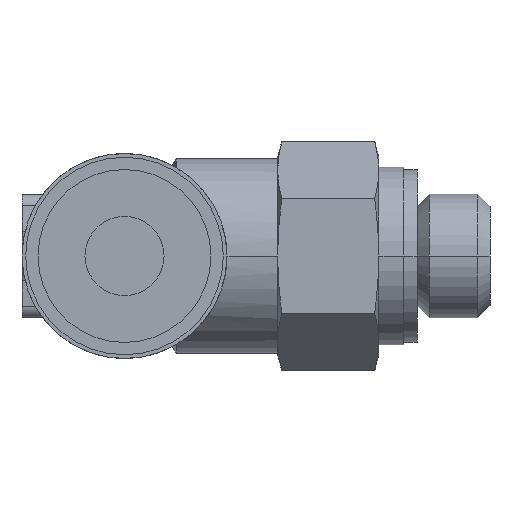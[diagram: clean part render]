
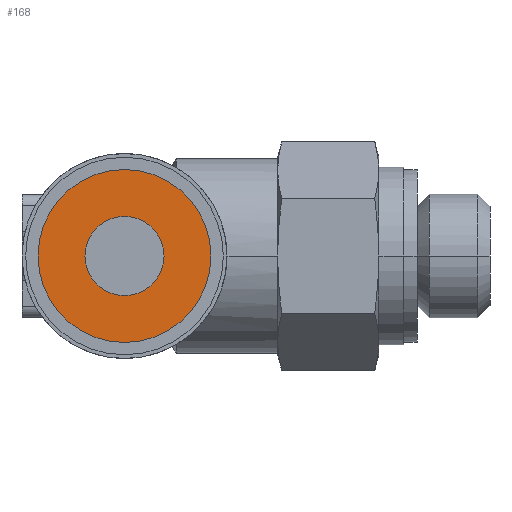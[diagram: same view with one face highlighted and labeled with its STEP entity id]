
A CAD part, left-side view. The second image highlights one B-rep face of the part: STEP entity #168.
In plain terms, the highlighted planar face has unit normal (-1, 0, 0).
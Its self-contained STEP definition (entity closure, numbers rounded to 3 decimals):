
#168 = ADVANCED_FACE( '', ( #367, #368 ), #369, .T. );
#367 = FACE_BOUND( '', #567, .T. );
#368 = FACE_OUTER_BOUND( '', #568, .T. );
#369 = PLANE( '', #569 );
#567 = EDGE_LOOP( '', ( #1281, #1282 ) );
#568 = EDGE_LOOP( '', ( #1283, #1284 ) );
#569 = AXIS2_PLACEMENT_3D( '', #1285, #1286, #1287 );
#1281 = ORIENTED_EDGE( '', *, *, #1367, .T. );
#1282 = ORIENTED_EDGE( '', *, *, #1363, .T. );
#1283 = ORIENTED_EDGE( '', *, *, #1291, .T. );
#1284 = ORIENTED_EDGE( '', *, *, #1505, .T. );
#1285 = CARTESIAN_POINT( '', ( -13.1, 13.6, 0. ) );
#1286 = DIRECTION( '', ( -1., 0., 0. ) );
#1287 = DIRECTION( '', ( 0., 1., 0. ) );
#1291 = EDGE_CURVE( '', #1507, #1511, #1513, .T. );
#1363 = EDGE_CURVE( '', #1653, #1650, #1654, .T. );
#1367 = EDGE_CURVE( '', #1650, #1653, #1659, .T. );
#1505 = EDGE_CURVE( '', #1511, #1507, #1861, .T. );
#1507 = VERTEX_POINT( '', #1863 );
#1511 = VERTEX_POINT( '', #1868 );
#1513 = CIRCLE( '', #1871, 3.5 );
#1650 = VERTEX_POINT( '', #2141 );
#1653 = VERTEX_POINT( '', #2145 );
#1654 = CIRCLE( '', #2146, 1.6 );
#1659 = CIRCLE( '', #2152, 1.6 );
#1861 = CIRCLE( '', #2784, 3.5 );
#1863 = CARTESIAN_POINT( '', ( -13.1, 15.35, 0. ) );
#1868 = CARTESIAN_POINT( '', ( -13.1, 8.35, 0. ) );
#1871 = AXIS2_PLACEMENT_3D( '', #2790, #2791, #2792 );
#2141 = CARTESIAN_POINT( '', ( -13.1, 13.45, 0. ) );
#2145 = CARTESIAN_POINT( '', ( -13.1, 10.25, 0. ) );
#2146 = AXIS2_PLACEMENT_3D( '', #2916, #2917, #2918 );
#2152 = AXIS2_PLACEMENT_3D( '', #2926, #2927, #2928 );
#2784 = AXIS2_PLACEMENT_3D( '', #3142, #3143, #3144 );
#2790 = CARTESIAN_POINT( '', ( -13.1, 11.85, 0. ) );
#2791 = DIRECTION( '', ( -1., 0., 0. ) );
#2792 = DIRECTION( '', ( 0., 1., 0. ) );
#2916 = CARTESIAN_POINT( '', ( -13.1, 11.85, 0. ) );
#2917 = DIRECTION( '', ( 1., 0., 0. ) );
#2918 = DIRECTION( '', ( 0., 1., 0. ) );
#2926 = CARTESIAN_POINT( '', ( -13.1, 11.85, 0. ) );
#2927 = DIRECTION( '', ( 1., 0., 0. ) );
#2928 = DIRECTION( '', ( 0., 1., 0. ) );
#3142 = CARTESIAN_POINT( '', ( -13.1, 11.85, 0. ) );
#3143 = DIRECTION( '', ( -1., 0., 0. ) );
#3144 = DIRECTION( '', ( 0., 1., 0. ) );
